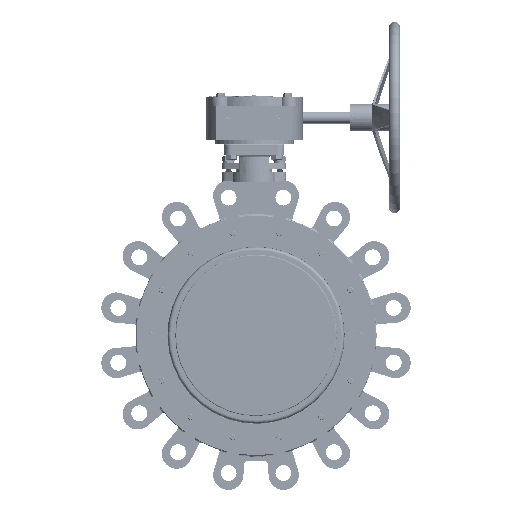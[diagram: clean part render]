
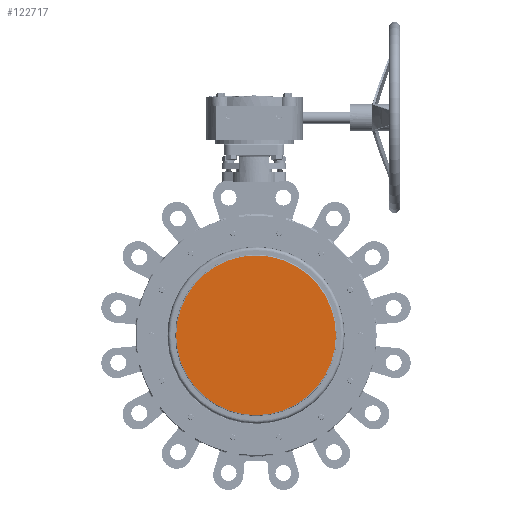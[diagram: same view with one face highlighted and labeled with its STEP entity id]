
A CAD part, front view. The second image highlights one B-rep face of the part: STEP entity #122717.
In plain terms, the highlighted planar face has unit normal (0, -1, 0).
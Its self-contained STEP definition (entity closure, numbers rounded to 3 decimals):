
#122683 = TOROIDAL_SURFACE('',#122684,4.984,0.059);
#122684 = AXIS2_PLACEMENT_3D('',#122685,#122686,#122687);
#122685 = CARTESIAN_POINT('',(-60.996,106.981,349.658)
  );
#122686 = DIRECTION('',(0.,1.,0.));
#122687 = DIRECTION('',(0.,0.,1.));
#122717 = ADVANCED_FACE('',(#122718),#122731,.F.);
#122718 = FACE_BOUND('',#122719,.T.);
#122719 = EDGE_LOOP('',(#122720));
#122720 = ORIENTED_EDGE('',*,*,#122721,.F.);
#122721 = EDGE_CURVE('',#122722,#122722,#122724,.T.);
#122722 = VERTEX_POINT('',#122723);
#122723 = CARTESIAN_POINT('',(-60.996,106.922,354.643)
  );
#122724 = SURFACE_CURVE('',#122725,(#122730,#122742),.PCURVE_S1.);
#122725 = CIRCLE('',#122726,4.984);
#122726 = AXIS2_PLACEMENT_3D('',#122727,#122728,#122729);
#122727 = CARTESIAN_POINT('',(-60.996,106.922,349.658)
  );
#122728 = DIRECTION('',(0.,1.,0.));
#122729 = DIRECTION('',(0.,0.,1.));
#122730 = PCURVE('',#122731,#122736);
#122731 = PLANE('',#122732);
#122732 = AXIS2_PLACEMENT_3D('',#122733,#122734,#122735);
#122733 = CARTESIAN_POINT('',(-60.996,106.922,349.658)
  );
#122734 = DIRECTION('',(0.,1.,0.));
#122735 = DIRECTION('',(0.,0.,1.));
#122736 = DEFINITIONAL_REPRESENTATION('',(#122737),#122741);
#122737 = CIRCLE('',#122738,4.984);
#122738 = AXIS2_PLACEMENT_2D('',#122739,#122740);
#122739 = CARTESIAN_POINT('',(0.,0.));
#122740 = DIRECTION('',(1.,0.));
#122741 = ( GEOMETRIC_REPRESENTATION_CONTEXT(2) 
PARAMETRIC_REPRESENTATION_CONTEXT() REPRESENTATION_CONTEXT('2D SPACE',''
  ) );
#122742 = PCURVE('',#122683,#122743);
#122743 = DEFINITIONAL_REPRESENTATION('',(#122744),#122748);
#122744 = LINE('',#122745,#122746);
#122745 = CARTESIAN_POINT('',(0.,4.712));
#122746 = VECTOR('',#122747,1.);
#122747 = DIRECTION('',(1.,0.));
#122748 = ( GEOMETRIC_REPRESENTATION_CONTEXT(2) 
PARAMETRIC_REPRESENTATION_CONTEXT() REPRESENTATION_CONTEXT('2D SPACE',''
  ) );
